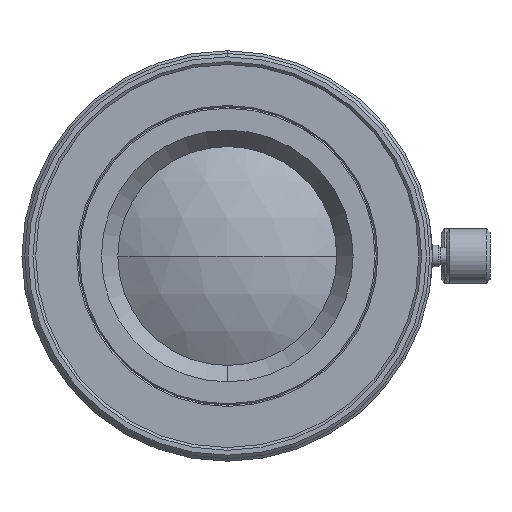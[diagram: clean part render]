
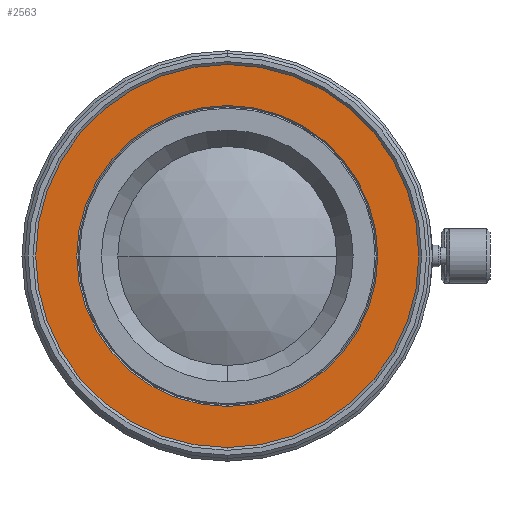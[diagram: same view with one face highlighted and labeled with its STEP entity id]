
A CAD part, left-side view. The second image highlights one B-rep face of the part: STEP entity #2563.
In plain terms, the highlighted planar face has unit normal (-1, 0, 0).
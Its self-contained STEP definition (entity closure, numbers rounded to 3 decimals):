
#146 = PLANE ( 'NONE',  #1753 ) ;
#162 = ORIENTED_EDGE ( 'NONE', *, *, #2476, .F. ) ;
#304 = DIRECTION ( 'NONE',  ( 0., 0., -1. ) ) ;
#687 = CIRCLE ( 'NONE', #1193, 13.75 ) ;
#691 = CARTESIAN_POINT ( 'NONE',  ( -60.3, 13.75, 0. ) ) ;
#822 = CARTESIAN_POINT ( 'NONE',  ( -60.3, 0., 0. ) ) ;
#911 = AXIS2_PLACEMENT_3D ( 'NONE', #932, #1771, #2754 ) ;
#932 = CARTESIAN_POINT ( 'NONE',  ( -60.3, 0., 0. ) ) ;
#1075 = DIRECTION ( 'NONE',  ( 1., 0., 0. ) ) ;
#1100 = EDGE_CURVE ( 'NONE', #1913, #1709, #2117, .T. ) ;
#1154 = AXIS2_PLACEMENT_3D ( 'NONE', #2072, #3336, #3116 ) ;
#1172 = DIRECTION ( 'NONE',  ( -1., 0., 0. ) ) ;
#1193 = AXIS2_PLACEMENT_3D ( 'NONE', #822, #1075, #2371 ) ;
#1376 = CARTESIAN_POINT ( 'NONE',  ( -60.3, 0., 0. ) ) ;
#1599 = VERTEX_POINT ( 'NONE', #2338 ) ;
#1638 = DIRECTION ( 'NONE',  ( 1., 0., 0. ) ) ;
#1674 = EDGE_CURVE ( 'NONE', #1709, #1913, #687, .T. ) ;
#1700 = ORIENTED_EDGE ( 'NONE', *, *, #1100, .T. ) ;
#1709 = VERTEX_POINT ( 'NONE', #2634 ) ;
#1753 = AXIS2_PLACEMENT_3D ( 'NONE', #691, #1172, #3000 ) ;
#1771 = DIRECTION ( 'NONE',  ( 1., 0., 0. ) ) ;
#1913 = VERTEX_POINT ( 'NONE', #2234 ) ;
#1931 = EDGE_LOOP ( 'NONE', ( #3084, #1700 ) ) ;
#1944 = FACE_BOUND ( 'NONE', #1931, .T. ) ;
#1961 = FACE_OUTER_BOUND ( 'NONE', #1973, .T. ) ;
#1973 = EDGE_LOOP ( 'NONE', ( #162, #2632 ) ) ;
#2072 = CARTESIAN_POINT ( 'NONE',  ( -60.3, 0., 0. ) ) ;
#2075 = AXIS2_PLACEMENT_3D ( 'NONE', #1376, #1638, #304 ) ;
#2117 = CIRCLE ( 'NONE', #911, 13.75 ) ;
#2234 = CARTESIAN_POINT ( 'NONE',  ( -60.3, 0., -13.75 ) ) ;
#2338 = CARTESIAN_POINT ( 'NONE',  ( -60.3, 0., 17.75 ) ) ;
#2371 = DIRECTION ( 'NONE',  ( 0., 0., -1. ) ) ;
#2476 = EDGE_CURVE ( 'NONE', #2543, #1599, #3174, .T. ) ;
#2480 = CARTESIAN_POINT ( 'NONE',  ( -60.3, 0., -17.75 ) ) ;
#2543 = VERTEX_POINT ( 'NONE', #2480 ) ;
#2563 = ADVANCED_FACE ( 'NONE', ( #1944, #1961 ), #146, .T. ) ;
#2632 = ORIENTED_EDGE ( 'NONE', *, *, #2764, .F. ) ;
#2634 = CARTESIAN_POINT ( 'NONE',  ( -60.3, 0., 13.75 ) ) ;
#2754 = DIRECTION ( 'NONE',  ( 0., 0., -1. ) ) ;
#2764 = EDGE_CURVE ( 'NONE', #1599, #2543, #3228, .T. ) ;
#3000 = DIRECTION ( 'NONE',  ( 0., 0., 1. ) ) ;
#3084 = ORIENTED_EDGE ( 'NONE', *, *, #1674, .T. ) ;
#3116 = DIRECTION ( 'NONE',  ( 0., 0., -1. ) ) ;
#3174 = CIRCLE ( 'NONE', #2075, 17.75 ) ;
#3228 = CIRCLE ( 'NONE', #1154, 17.75 ) ;
#3336 = DIRECTION ( 'NONE',  ( 1., 0., 0. ) ) ;
